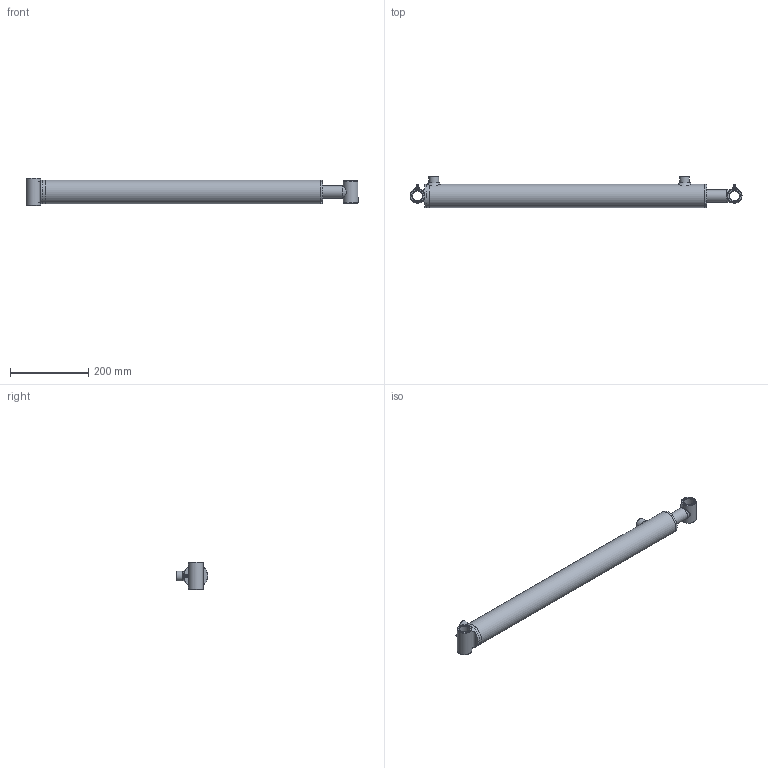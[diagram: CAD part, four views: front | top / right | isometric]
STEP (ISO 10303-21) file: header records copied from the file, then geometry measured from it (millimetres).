
FILE_DESCRIPTION(/* description */ (''),/* implementation_level */ '2;1');
FILE_NAME(/* name */ 'C:\01 - Philip\00 - Philip Rivard\01 - Contracts\Eagle Hydraulic Components\00 - 3D Cylinder\01 - Standard\HBU\HBU20XX\STEP\HBU2032.stp',/* time_stamp */ '2015-05-19T20:06:28-04:00',/* author */ ('Philip'),/* organization */ (''),/* preprocessor_version */ 'ST-DEVELOPER v16.1',/* originating_system */ 'Autodesk Inventor 2016',/* authorisation */ '');
FILE_SCHEMA (('AUTOMOTIVE_DESIGN { 1 0 10303 214 3 1 1 }'));
Length unit declared in the file: inch
Products named in the file (12): Tube_Welding_Welds; ECP-20-HBU; Tube; Straight_Port; Gland; Grease Fitting 1-8; Tube_Welding; Rod_Welding_Welds; Rod; Bushing; Rod_Welding; Cylinder_Assembly
Assembly tree (13 placements, depth 3):
  Cylinder_Assembly
    Tube_Welding
      Tube_Welding_Welds
      ECP-20-HBU
      Tube
      Straight_Port  x2
      Gland
      Grease Fitting 1-8
    Rod_Welding
      Rod_Welding_Welds
      Rod
      Bushing
      Grease Fitting 1-8
Bounding box: 850.9 x 80.33 x 69.8 mm (x, y, z)
Volume: 1352051.8 mm3; surface area: 389267.9 mm2
Topology: 12 solids, 12 shells, 197 faces, 429 edges, 260 vertices
Faces by surface type: cone 65, plane 55, cylinder 50, torus 15, bspline 10, sphere 2
Full cylindrical faces by diameter (mm): 4 x2, 5 x1, 7.5 x2, 8 x2, 10 x2, 12.751 x2, 22 x1, 25 x4, 25.4 x2, 25.65 x2, 26 x1, 26.25 x1, 31.75 x2, 38.1 x2, 43 x1, 44.45 x1, 50.546 x1, 50.75 x1, 50.8 x1, 51 x1, 55 x4, 60.3 x1, 60.325 x1
Entity records: 6108 total; most frequent: CARTESIAN_POINT 2918, DIRECTION 631, ORIENTED_EDGE 486, AXIS2_PLACEMENT_3D 293, EDGE_LOOP 270, EDGE_CURVE 243, VERTEX_POINT 191, ADVANCED_FACE 157
